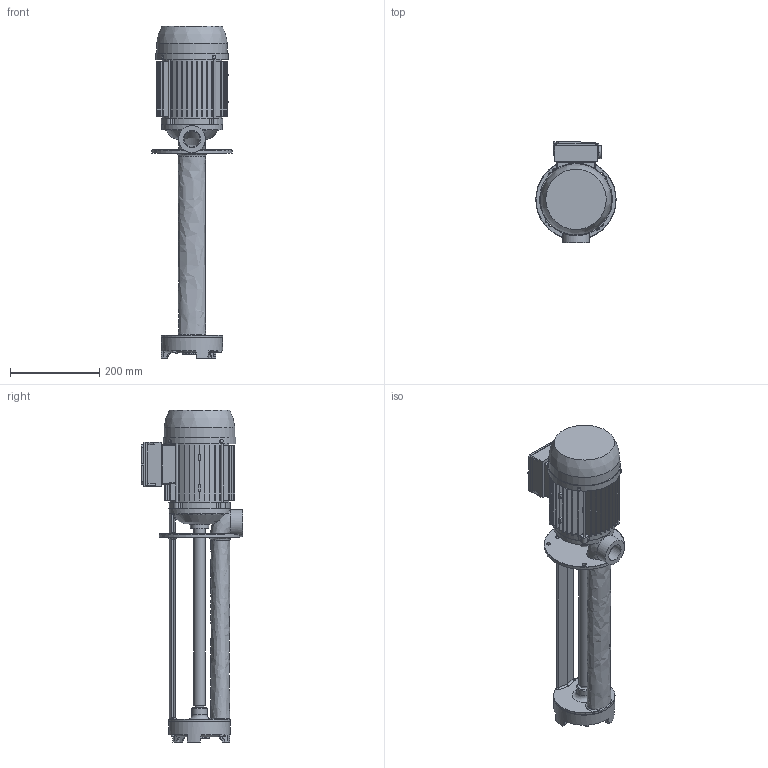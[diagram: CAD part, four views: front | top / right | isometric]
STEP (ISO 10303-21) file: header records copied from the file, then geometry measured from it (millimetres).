
FILE_DESCRIPTION(/* description */ (''),/* implementation_level */ '2;1');
FILE_NAME(/* name */ 'P:\3D PER CLIENTI\POMPE\SP\YT80SPB++440.stp',/* time_stamp */ '2019-05-27T09:19:09+02:00',/* author */ ('vgiaretta'),/* organization */ (''),/* preprocessor_version */ 'ST-DEVELOPER v17.2',/* originating_system */ 'Autodesk Inventor 2019',/* authorisation */ '');
FILE_SCHEMA (('AUTOMOTIVE_DESIGN { 1 0 10303 214 3 1 1 }'));
Length unit declared in the file: millimetre
Products named in the file (1): YT80SPB++440_Shrinkwrap_1
Bounding box: 180.26 x 227.93 x 744.48 mm (x, y, z)
Volume: 6454753.7 mm3; surface area: 800087.9 mm2
Topology: 23 solids, 23 shells, 1170 faces, 3098 edges, 2073 vertices
Faces by surface type: plane 601, cylinder 422, bspline 85, cone 27, torus 21, sphere 14
Full cylindrical faces by diameter (mm): 2.53 x2, 3.5 x4, 4 x4, 4.38 x4, 8 x3, 9 x4, 10 x1, 11 x1, 18.6 x1, 19 x1, 19.6 x1, 19.8 x1, 20 x2, 23.5 x1, 24.8 x2, 24.912 x1, 25 x2, 28.3 x1, 28.4 x1, 30 x1, 34 x1, 36.4 x1, 38.952 x1, 41 x1, 44.6 x1, 60.4 x1, 114 x1, 130 x2, 133.8 x1, 134 x1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
Entity records: 43683 total; most frequent: CARTESIAN_POINT 13861, ORIENTED_EDGE 6184, DIRECTION 5502, EDGE_CURVE 3092, VERTEX_POINT 2073, AXIS2_PLACEMENT_3D 1898, LINE 1706, VECTOR 1706
